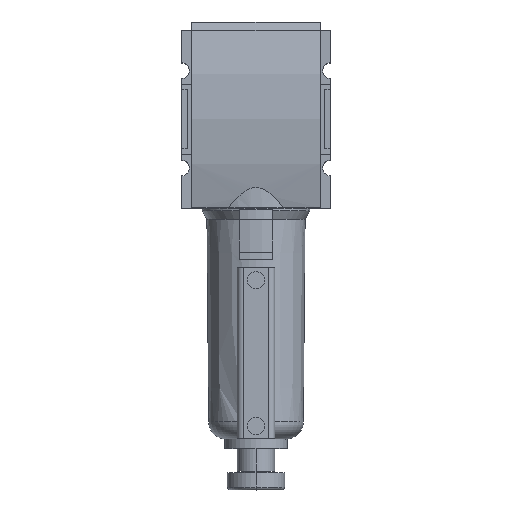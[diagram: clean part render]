
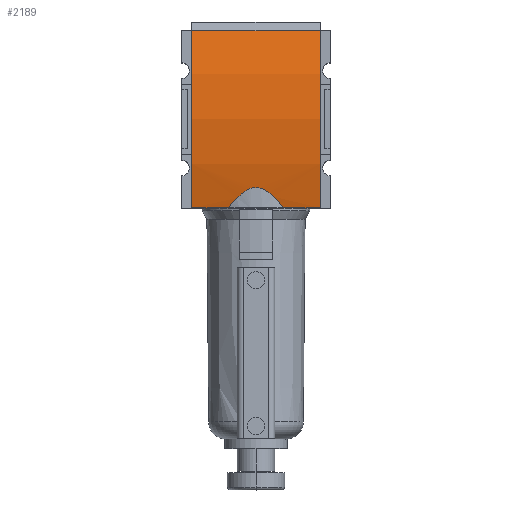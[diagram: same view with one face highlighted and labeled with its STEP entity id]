
A CAD part, top view. The second image highlights one B-rep face of the part: STEP entity #2189.
In plain terms, the highlighted cylindrical face has radius 115 mm (diameter 230 mm), a partial arc.
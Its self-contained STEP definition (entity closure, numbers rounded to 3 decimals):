
#55=CARTESIAN_POINT('',(-22.5,0.,-85.5));
#56=DIRECTION('',(1.,0.,0.));
#57=DIRECTION('',(0.,0.27,0.963));
#58=AXIS2_PLACEMENT_3D('',#55,#56,#57);
#225=CARTESIAN_POINT('',(22.5,0.,-85.5));
#226=DIRECTION('',(1.,0.,0.));
#227=DIRECTION('',(0.,0.27,0.963));
#228=AXIS2_PLACEMENT_3D('',#225,#226,#227);
#628=CARTESIAN_POINT('',(9.581,-31.,25.243));
#629=CARTESIAN_POINT('',(9.396,-30.749,25.313));
#630=CARTESIAN_POINT('',(9.02,-30.249,25.451));
#631=CARTESIAN_POINT('',(8.431,-29.501,25.653));
#632=CARTESIAN_POINT('',(7.824,-28.77,25.844));
#633=CARTESIAN_POINT('',(7.205,-28.065,26.024));
#634=CARTESIAN_POINT('',(6.575,-27.396,26.19));
#635=CARTESIAN_POINT('',(5.923,-26.754,26.345));
#636=CARTESIAN_POINT('',(5.257,-26.157,26.486));
#637=CARTESIAN_POINT('',(4.633,-25.656,26.602));
#638=CARTESIAN_POINT('',(4.077,-25.258,26.692));
#639=CARTESIAN_POINT('',(3.569,-24.934,26.765));
#640=CARTESIAN_POINT('',(3.089,-24.664,26.824));
#641=CARTESIAN_POINT('',(2.628,-24.44,26.873));
#642=CARTESIAN_POINT('',(2.187,-24.258,26.912));
#643=CARTESIAN_POINT('',(1.765,-24.114,26.943));
#644=CARTESIAN_POINT('',(1.358,-24.005,26.967));
#645=CARTESIAN_POINT('',(0.963,-23.925,26.984));
#646=CARTESIAN_POINT('',(0.576,-23.873,26.995));
#647=CARTESIAN_POINT('',(0.191,-23.847,27.));
#648=CARTESIAN_POINT('',(-0.191,-23.847,
27.));
#649=CARTESIAN_POINT('',(-0.576,-23.873,
26.995));
#650=CARTESIAN_POINT('',(-0.963,-23.925,
26.984));
#651=CARTESIAN_POINT('',(-1.358,-24.005,26.967));
#652=CARTESIAN_POINT('',(-1.765,-24.114,26.943));
#653=CARTESIAN_POINT('',(-2.187,-24.258,26.912));
#654=CARTESIAN_POINT('',(-2.628,-24.44,26.873));
#655=CARTESIAN_POINT('',(-3.089,-24.664,26.824));
#656=CARTESIAN_POINT('',(-3.569,-24.934,26.765));
#657=CARTESIAN_POINT('',(-4.077,-25.258,26.692));
#658=CARTESIAN_POINT('',(-4.633,-25.657,26.602));
#659=CARTESIAN_POINT('',(-5.257,-26.158,26.486));
#660=CARTESIAN_POINT('',(-5.923,-26.754,26.345));
#661=CARTESIAN_POINT('',(-6.575,-27.395,26.19));
#662=CARTESIAN_POINT('',(-7.205,-28.065,26.024));
#663=CARTESIAN_POINT('',(-7.825,-28.77,25.844));
#664=CARTESIAN_POINT('',(-8.431,-29.501,25.652));
#665=CARTESIAN_POINT('',(-9.02,-30.249,25.451));
#666=CARTESIAN_POINT('',(-9.396,-30.749,25.313));
#667=CARTESIAN_POINT('',(-9.581,-31.,25.243));
#669=DIRECTION('',(1.,0.,0.));
#670=VECTOR('',#669,45.);
#671=CARTESIAN_POINT('',(-22.5,31.,25.243));
#672=LINE('',#671,#670);
#682=DIRECTION('',(1.,0.,0.));
#683=VECTOR('',#682,12.919);
#684=CARTESIAN_POINT('',(-22.5,-31.,25.243));
#685=LINE('',#684,#683);
#691=DIRECTION('',(1.,0.,0.));
#692=VECTOR('',#691,12.919);
#693=CARTESIAN_POINT('',(9.581,-31.,25.243));
#694=LINE('',#693,#692);
#1154=CARTESIAN_POINT('',(-22.5,31.,25.243));
#1155=CARTESIAN_POINT('',(-22.5,-31.,25.243));
#1156=VERTEX_POINT('',#1154);
#1157=VERTEX_POINT('',#1155);
#1162=CARTESIAN_POINT('',(22.5,31.,25.243));
#1163=CARTESIAN_POINT('',(22.5,-31.,25.243));
#1164=VERTEX_POINT('',#1162);
#1165=VERTEX_POINT('',#1163);
#1282=VERTEX_POINT('',#628);
#1283=VERTEX_POINT('',#667);
#2173=CARTESIAN_POINT('',(-22.5,0.,-85.5));
#2174=DIRECTION('',(1.,0.,0.));
#2175=DIRECTION('',(0.,0.,-1.));
#2176=AXIS2_PLACEMENT_3D('',#2173,#2174,#2175);
#2177=CYLINDRICAL_SURFACE('',#2176,115.);
#2179=ORIENTED_EDGE('',*,*,#2178,.T.);
#2181=ORIENTED_EDGE('',*,*,#2180,.F.);
#2182=ORIENTED_EDGE('',*,*,#1527,.F.);
#2183=ORIENTED_EDGE('',*,*,#2129,.T.);
#2184=ORIENTED_EDGE('',*,*,#1697,.T.);
#2186=ORIENTED_EDGE('',*,*,#2185,.F.);
#2187=EDGE_LOOP('',(#2179,#2181,#2182,#2183,#2184,#2186));
#2188=FACE_OUTER_BOUND('',#2187,.F.);
#2189=ADVANCED_FACE('',(#2188),#2177,.T.);
#59=CIRCLE('',#58,115.);
#229=CIRCLE('',#228,115.);
#668=B_SPLINE_CURVE_WITH_KNOTS('',3,(#628,#629,#630,#631,#632,#633,#634,#635,
#636,#637,#638,#639,#640,#641,#642,#643,#644,#645,#646,#647,#648,#649,#650,#651,
#652,#653,#654,#655,#656,#657,#658,#659,#660,#661,#662,#663,#664,#665,#666,
#667),.UNSPECIFIED.,.F.,.F.,(4,1,1,1,1,1,1,1,1,1,1,1,1,1,1,1,1,1,1,1,1,1,1,1,1,
1,1,1,1,1,1,1,1,1,1,1,1,4),(0.,0.027,0.054,
0.081,0.108,0.135,0.162,
0.189,0.216,0.243,0.27,
0.297,0.324,0.351,0.378,
0.405,0.432,0.459,0.486,
0.514,0.541,0.568,0.595,
0.622,0.649,0.676,0.703,
0.73,0.757,0.784,0.811,
0.838,0.865,0.892,0.919,
0.946,0.973,1.),.UNSPECIFIED.);
#1527=EDGE_CURVE('',#1156,#1157,#59,.T.);
#1697=EDGE_CURVE('',#1164,#1165,#229,.T.);
#2129=EDGE_CURVE('',#1156,#1164,#672,.T.);
#2178=EDGE_CURVE('',#1282,#1283,#668,.T.);
#2180=EDGE_CURVE('',#1157,#1283,#685,.T.);
#2185=EDGE_CURVE('',#1282,#1165,#694,.T.);
